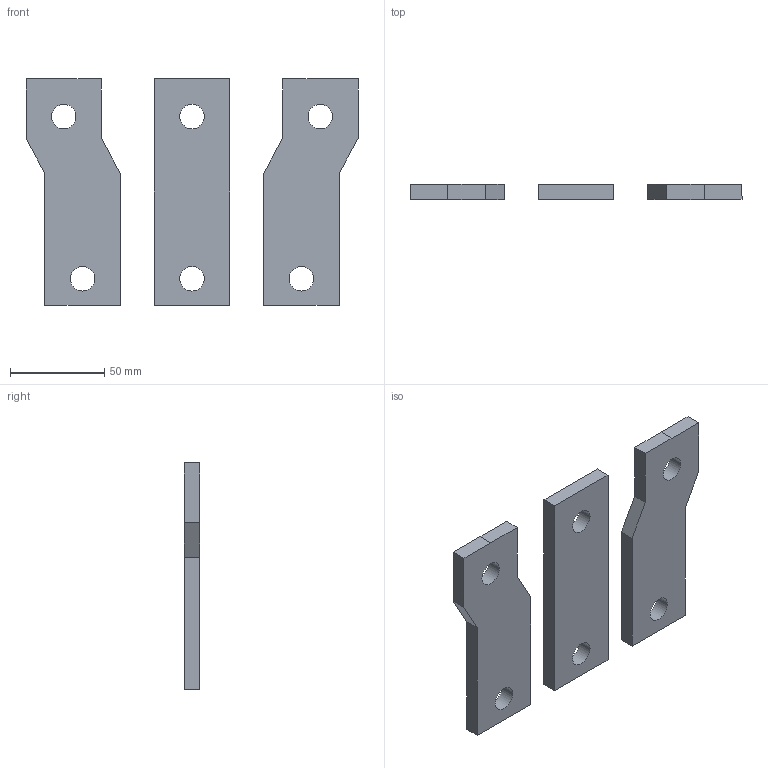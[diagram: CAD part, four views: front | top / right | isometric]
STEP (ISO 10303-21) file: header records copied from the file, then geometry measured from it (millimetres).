
FILE_DESCRIPTION (( 'STEP AP214' ), '1' );
FILE_NAME ('TGM1N-GP-630s-3P.STEP', '2025-12-29T11:41:20', ( '' ), ( '' ), 'SwSTEP 2.0', 'SolidWorks 2024', '' );
FILE_SCHEMA (( 'AUTOMOTIVE_DESIGN' ));
Length unit declared in the file: millimetre
Products named in the file (7): 630S-800ZHIPAI_1_2.stp; TGM1NE-GP-630s-800-3P(straight); TGM1N-GP-630s-3P; TGM1NE-GP-630s-800-3P.stp; TGM1NE-GP-630s-8001-3P; 630S-800ZHIPAI_1_3.stp; TGM1NE-GP-630s-800-3P(straight).stp
Assembly tree (7 placements, depth 4):
  TGM1N-GP-630s-3P
    TGM1NE-GP-630s-800-3P.stp
      630S-800ZHIPAI_1_3.stp
    TGM1NE-GP-630s-800-3P(straight)
      TGM1NE-GP-630s-800-3P(straight).stp
        630S-800ZHIPAI_1_2.stp
    TGM1NE-GP-630s-8001-3P
      TGM1NE-GP-630s-800-3P.stp
        630S-800ZHIPAI_1_3.stp
Bounding box: 176 x 8 x 120 mm (x, y, z)
Volume: 108828.9 mm3; surface area: 36929.7 mm2
Topology: 3 solids, 3 shells, 40 faces, 102 edges, 68 vertices
Faces by surface type: plane 28, cylinder 12
Entity records: 969 total; most frequent: DIRECTION 157, CARTESIAN_POINT 144, ORIENTED_EDGE 126, EDGE_CURVE 63, AXIS2_PLACEMENT_3D 55, VECTOR 47, LINE 47, VERTEX_POINT 42
